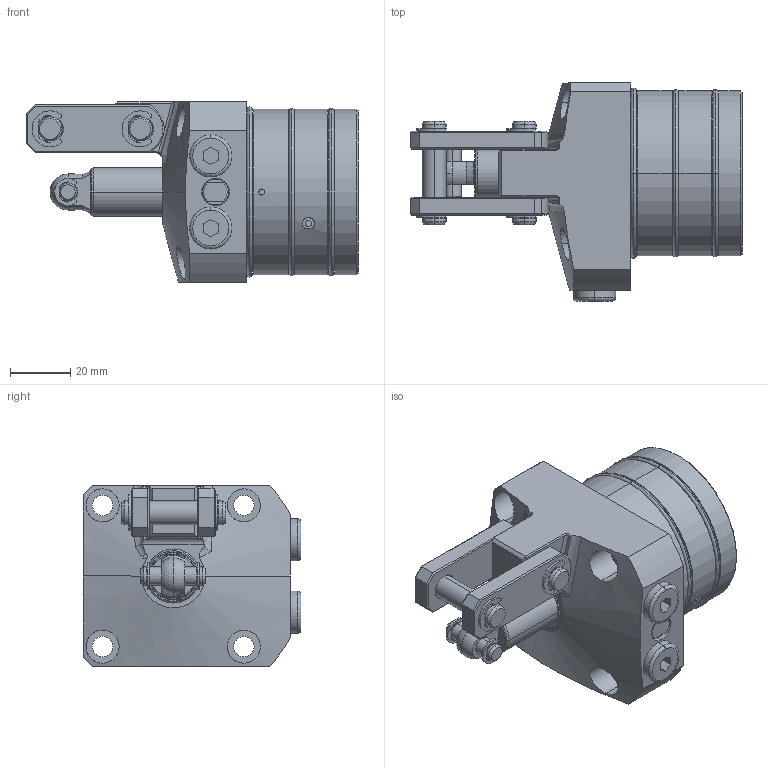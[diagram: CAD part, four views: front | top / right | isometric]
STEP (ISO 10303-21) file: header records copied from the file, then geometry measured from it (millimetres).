
FILE_DESCRIPTION(/* description */ (''),/* implementation_level */ '2;1');
FILE_NAME(/* name */ 'KTPW55-RE.stp',/* time_stamp */ '2022-11-19T15:42:04+08:00',/* author */ (''),/* organization */ (''),/* preprocessor_version */ 'ST-DEVELOPER v16.7',/* originating_system */ 'SIEMENS PLM Software NX 12.0',/* authorisation */ '');
FILE_SCHEMA (('AP203_CONFIGURATION_CONTROLLED_3D_DESIGN_OF_MECHANICAL_PARTS_AND_ASSEMBLIES_MIM_LF { 1 0 10303 403 2 1 2}'));
Length unit declared in the file: millimetre
Products named in the file (11): KTPW55-RE-01; KTPW55-RE-08; KTPW55-RE-02; KTPW55-RE-04; KTPW55-RE-06; KTPW55-RE-07; KTPW55-RE-05; KTPW55-RE-09; KTPW55-RE-010; KTPW55-RE-03; LKW0551-CRE_step
Assembly tree (19 placements, depth 2):
  LKW0551-CRE_step
    KTPW55-RE-03
    KTPW55-RE-010  x3
    KTPW55-RE-09  x2
    KTPW55-RE-05  x2
    KTPW55-RE-07  x4
    KTPW55-RE-06
    KTPW55-RE-04  x2
    KTPW55-RE-02
    KTPW55-RE-08  x2
    KTPW55-RE-01
Bounding box: 110.5 x 72.5 x 60 mm (x, y, z)
Volume: 197855.4 mm3; surface area: 45563.6 mm2
Topology: 22 solids, 24 shells, 687 faces, 1591 edges, 983 vertices
Faces by surface type: cylinder 268, plane 204, torus 120, cone 84, bspline 9, sphere 2
Full cylindrical faces by diameter (mm): 55 x1
Entity records: 14527 total; most frequent: CARTESIAN_POINT 3200, DIRECTION 2251, ORIENTED_EDGE 1904, EDGE_CURVE 952, AXIS2_PLACEMENT_3D 938, VERTEX_POINT 586, CIRCLE 502, EDGE_LOOP 478
